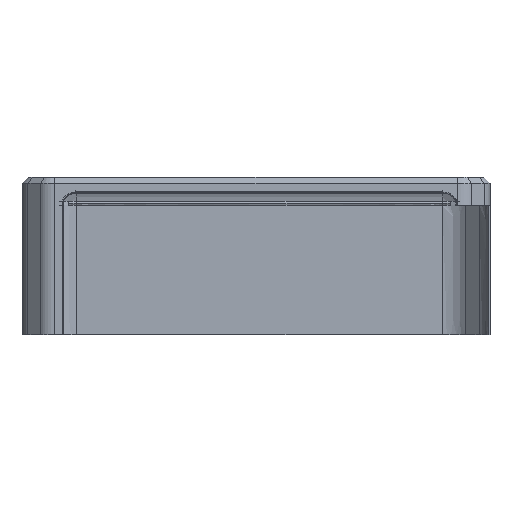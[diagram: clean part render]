
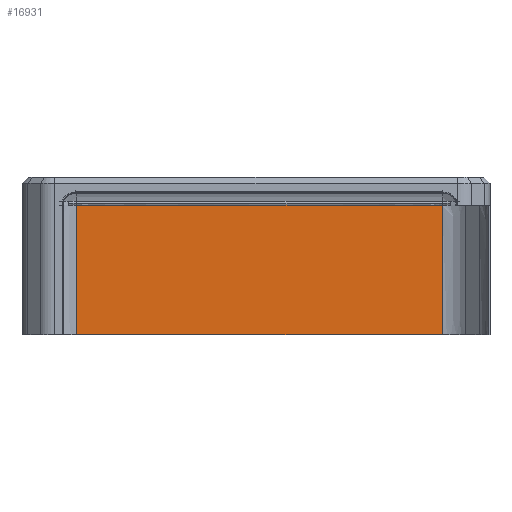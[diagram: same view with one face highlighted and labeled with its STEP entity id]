
A CAD part, front view. The second image highlights one B-rep face of the part: STEP entity #16931.
In plain terms, the highlighted planar face has unit normal (0, -1, 0).
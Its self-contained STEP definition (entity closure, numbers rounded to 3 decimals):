
#11652=DIRECTION('',(0.,0.,-1.));
#11653=VECTOR('',#11652,32.);
#11654=CARTESIAN_POINT('',(-45.225,129.202,
16.564));
#11655=LINE('',#11654,#11653);
#11685=CARTESIAN_POINT('',(-45.225,129.202,
16.564));
#12876=DIRECTION('',(-1.,0.,0.));
#12877=VECTOR('',#12876,90.451);
#12878=CARTESIAN_POINT('',(45.225,129.202,
-15.436));
#12879=LINE('',#12878,#12877);
#12889=CARTESIAN_POINT('',(45.225,129.202,
-15.436));
#13023=DIRECTION('',(0.,0.,-1.));
#13024=VECTOR('',#13023,32.);
#13025=CARTESIAN_POINT('',(45.225,129.202,16.564));
#13026=LINE('',#13025,#13024);
#13027=CARTESIAN_POINT('',(45.225,129.202,16.564));
#13037=DIRECTION('',(-1.,0.,0.));
#13038=VECTOR('',#13037,90.45);
#13039=CARTESIAN_POINT('',(45.225,129.202,16.564));
#13040=LINE('',#13039,#13038);
#14056=VERTEX_POINT('',#11685);
#14057=VERTEX_POINT('',#13027);
#14152=VERTEX_POINT('',#12889);
#14153=CARTESIAN_POINT('',(-45.226,129.202,
-15.436));
#14154=VERTEX_POINT('',#14153);
#16919=CARTESIAN_POINT('',(45.225,129.202,16.564));
#16920=DIRECTION('',(0.,-1.,0.));
#16921=DIRECTION('',(-1.,0.,0.));
#16922=AXIS2_PLACEMENT_3D('',#16919,#16920,#16921);
#16923=PLANE('',#16922);
#16925=ORIENTED_EDGE('',*,*,#16924,.F.);
#16926=ORIENTED_EDGE('',*,*,#14423,.T.);
#16927=ORIENTED_EDGE('',*,*,#16755,.T.);
#16928=ORIENTED_EDGE('',*,*,#15059,.F.);
#16929=EDGE_LOOP('',(#16925,#16926,#16927,#16928));
#16930=FACE_OUTER_BOUND('',#16929,.F.);
#14423=EDGE_CURVE('',#14057,#14152,#13026,.T.);
#15059=EDGE_CURVE('',#14056,#14154,#11655,.T.);
#16755=EDGE_CURVE('',#14152,#14154,#12879,.T.);
#16924=EDGE_CURVE('',#14057,#14056,#13040,.T.);
#16931=ADVANCED_FACE('',(#16930),#16923,.T.);
